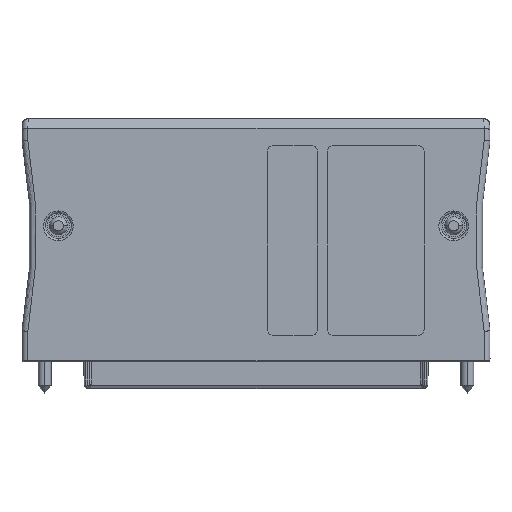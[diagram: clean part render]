
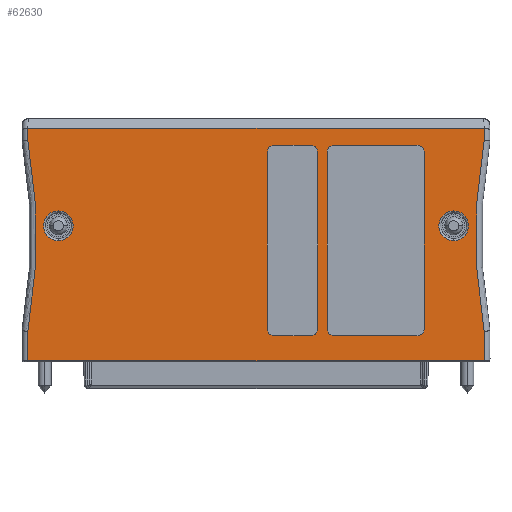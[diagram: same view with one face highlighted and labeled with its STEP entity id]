
A CAD part, left-side view. The second image highlights one B-rep face of the part: STEP entity #62630.
In plain terms, the highlighted planar face has unit normal (-1, 0, 0).
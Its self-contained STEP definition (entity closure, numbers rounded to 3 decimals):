
#5386=DIRECTION('',(0.,-1.,0.));
#5387=VECTOR('',#5386,4.878);
#5388=CARTESIAN_POINT('',(-0.473,2.439,1.2));
#5389=LINE('',#5388,#5387);
#5397=CARTESIAN_POINT('',(-0.473,2.439,1.2));
#5399=DIRECTION('',(0.,0.,-1.));
#5400=VECTOR('',#5399,0.13);
#5401=CARTESIAN_POINT('',(-0.473,2.439,1.2));
#5402=LINE('',#5401,#5400);
#5423=CARTESIAN_POINT('',(-0.473,-0.84,-0.94));
#5424=DIRECTION('',(-1.,0.,0.));
#5425=DIRECTION('',(0.,1.,0.));
#5426=AXIS2_PLACEMENT_3D('',#5423,#5424,#5425);
#5428=DIRECTION('',(0.,-1.,0.));
#5429=VECTOR('',#5428,0.88);
#5430=CARTESIAN_POINT('',(-0.473,-0.84,-1.02));
#5431=LINE('',#5430,#5429);
#5432=CARTESIAN_POINT('',(-0.473,-1.72,-0.94));
#5433=DIRECTION('',(-1.,0.,0.));
#5434=DIRECTION('',(0.,0.,-1.));
#5435=AXIS2_PLACEMENT_3D('',#5432,#5433,#5434);
#5437=DIRECTION('',(0.,0.,1.));
#5438=VECTOR('',#5437,1.88);
#5439=CARTESIAN_POINT('',(-0.473,-1.8,-0.94));
#5440=LINE('',#5439,#5438);
#5441=CARTESIAN_POINT('',(-0.473,-1.72,0.94));
#5442=DIRECTION('',(-1.,0.,0.));
#5443=DIRECTION('',(0.,-1.,0.));
#5444=AXIS2_PLACEMENT_3D('',#5441,#5442,#5443);
#5446=DIRECTION('',(0.,1.,0.));
#5447=VECTOR('',#5446,0.88);
#5448=CARTESIAN_POINT('',(-0.473,-1.72,1.02));
#5449=LINE('',#5448,#5447);
#5450=CARTESIAN_POINT('',(-0.473,-0.84,0.94));
#5451=DIRECTION('',(-1.,0.,0.));
#5452=DIRECTION('',(0.,0.,1.));
#5453=AXIS2_PLACEMENT_3D('',#5450,#5451,#5452);
#5455=DIRECTION('',(0.,0.,-1.));
#5456=VECTOR('',#5455,1.88);
#5457=CARTESIAN_POINT('',(-0.473,-0.76,0.94));
#5458=LINE('',#5457,#5456);
#5459=CARTESIAN_POINT('',(-0.473,-0.2,-0.94));
#5460=DIRECTION('',(-1.,0.,0.));
#5461=DIRECTION('',(0.,1.,0.));
#5462=AXIS2_PLACEMENT_3D('',#5459,#5460,#5461);
#5464=DIRECTION('',(0.,-1.,0.));
#5465=VECTOR('',#5464,0.38);
#5466=CARTESIAN_POINT('',(-0.473,-0.2,-1.02));
#5467=LINE('',#5466,#5465);
#5468=CARTESIAN_POINT('',(-0.473,-0.58,-0.94));
#5469=DIRECTION('',(-1.,0.,0.));
#5470=DIRECTION('',(0.,0.,-1.));
#5471=AXIS2_PLACEMENT_3D('',#5468,#5469,#5470);
#5473=DIRECTION('',(0.,0.,1.));
#5474=VECTOR('',#5473,1.88);
#5475=CARTESIAN_POINT('',(-0.473,-0.66,-0.94));
#5476=LINE('',#5475,#5474);
#5477=CARTESIAN_POINT('',(-0.473,-0.58,0.94));
#5478=DIRECTION('',(-1.,0.,0.));
#5479=DIRECTION('',(0.,-1.,0.));
#5480=AXIS2_PLACEMENT_3D('',#5477,#5478,#5479);
#5482=DIRECTION('',(0.,1.,0.));
#5483=VECTOR('',#5482,0.38);
#5484=CARTESIAN_POINT('',(-0.473,-0.58,1.02));
#5485=LINE('',#5484,#5483);
#5486=CARTESIAN_POINT('',(-0.473,-0.2,0.94));
#5487=DIRECTION('',(-1.,0.,0.));
#5488=DIRECTION('',(0.,0.,1.));
#5489=AXIS2_PLACEMENT_3D('',#5486,#5487,#5488);
#5491=DIRECTION('',(0.,0.,-1.));
#5492=VECTOR('',#5491,1.88);
#5493=CARTESIAN_POINT('',(-0.473,-0.12,0.94));
#5494=LINE('',#5493,#5492);
#5495=DIRECTION('',(0.,-1.,0.));
#5496=VECTOR('',#5495,4.878);
#5497=CARTESIAN_POINT('',(-0.473,2.439,-1.285));
#5498=LINE('',#5497,#5496);
#5549=DIRECTION('',(0.,0.,1.));
#5550=VECTOR('',#5549,0.315);
#5551=CARTESIAN_POINT('',(-0.473,-2.439,-1.285));
#5552=LINE('',#5551,#5550);
#5557=CARTESIAN_POINT('',(-0.473,-8.178,0.05));
#5558=DIRECTION('',(1.,0.,0.));
#5559=DIRECTION('',(0.,0.985,-0.175));
#5560=AXIS2_PLACEMENT_3D('',#5557,#5558,#5559);
#5587=DIRECTION('',(0.,0.,-1.));
#5588=VECTOR('',#5587,0.13);
#5589=CARTESIAN_POINT('',(-0.473,-2.439,1.2));
#5590=LINE('',#5589,#5588);
#40215=DIRECTION('',(0.,0.,-1.));
#40216=VECTOR('',#40215,0.315);
#40217=CARTESIAN_POINT('',(-0.473,2.439,-0.97));
#40218=LINE('',#40217,#40216);
#40248=CARTESIAN_POINT('',(-0.473,8.178,0.05));
#40249=DIRECTION('',(1.,0.,0.));
#40250=DIRECTION('',(0.,-0.985,0.175));
#40251=AXIS2_PLACEMENT_3D('',#40248,#40249,#40250);
#40273=CARTESIAN_POINT('',(-0.473,-2.113,0.157));
#40274=DIRECTION('',(1.,0.,0.));
#40275=DIRECTION('',(0.,0.,1.));
#40276=AXIS2_PLACEMENT_3D('',#40273,#40274,#40275);
#40288=CARTESIAN_POINT('',(-0.473,-2.113,0.157));
#40289=DIRECTION('',(1.,0.,0.));
#40290=DIRECTION('',(0.,0.,-1.));
#40291=AXIS2_PLACEMENT_3D('',#40288,#40289,#40290);
#40379=CARTESIAN_POINT('',(-0.473,2.113,0.157));
#40380=DIRECTION('',(1.,0.,0.));
#40381=DIRECTION('',(0.,0.,1.));
#40382=AXIS2_PLACEMENT_3D('',#40379,#40380,#40381);
#40394=CARTESIAN_POINT('',(-0.473,2.113,0.157));
#40395=DIRECTION('',(1.,0.,0.));
#40396=DIRECTION('',(0.,0.,-1.));
#40397=AXIS2_PLACEMENT_3D('',#40394,#40395,#40396);
#52172=CARTESIAN_POINT('',(-0.473,-2.113,0.316));
#52173=CARTESIAN_POINT('',(-0.473,-2.113,-0.003));
#52174=VERTEX_POINT('',#52172);
#52175=VERTEX_POINT('',#52173);
#52180=CARTESIAN_POINT('',(-0.473,2.113,0.316));
#52181=CARTESIAN_POINT('',(-0.473,2.113,-0.003));
#52182=VERTEX_POINT('',#52180);
#52183=VERTEX_POINT('',#52181);
#52728=CARTESIAN_POINT('',(-0.473,2.439,-1.285));
#52729=CARTESIAN_POINT('',(-0.473,-2.439,-1.285));
#52730=VERTEX_POINT('',#52728);
#52731=VERTEX_POINT('',#52729);
#53068=CARTESIAN_POINT('',(-0.473,-0.76,-0.94));
#53069=CARTESIAN_POINT('',(-0.473,-0.84,-1.02));
#53070=VERTEX_POINT('',#53068);
#53071=VERTEX_POINT('',#53069);
#53072=CARTESIAN_POINT('',(-0.473,-1.72,-1.02));
#53073=VERTEX_POINT('',#53072);
#53074=CARTESIAN_POINT('',(-0.473,-1.8,-0.94));
#53075=VERTEX_POINT('',#53074);
#53076=CARTESIAN_POINT('',(-0.473,-1.8,0.94));
#53077=VERTEX_POINT('',#53076);
#53078=CARTESIAN_POINT('',(-0.473,-1.72,1.02));
#53079=VERTEX_POINT('',#53078);
#53080=CARTESIAN_POINT('',(-0.473,-0.84,1.02));
#53081=VERTEX_POINT('',#53080);
#53082=CARTESIAN_POINT('',(-0.473,-0.76,0.94));
#53083=VERTEX_POINT('',#53082);
#53084=CARTESIAN_POINT('',(-0.473,-0.12,-0.94));
#53085=CARTESIAN_POINT('',(-0.473,-0.2,-1.02));
#53086=VERTEX_POINT('',#53084);
#53087=VERTEX_POINT('',#53085);
#53088=CARTESIAN_POINT('',(-0.473,-0.58,-1.02));
#53089=VERTEX_POINT('',#53088);
#53090=CARTESIAN_POINT('',(-0.473,-0.66,-0.94));
#53091=VERTEX_POINT('',#53090);
#53092=CARTESIAN_POINT('',(-0.473,-0.66,0.94));
#53093=VERTEX_POINT('',#53092);
#53094=CARTESIAN_POINT('',(-0.473,-0.58,1.02));
#53095=VERTEX_POINT('',#53094);
#53096=CARTESIAN_POINT('',(-0.473,-0.2,1.02));
#53097=VERTEX_POINT('',#53096);
#53098=CARTESIAN_POINT('',(-0.473,-0.12,0.94));
#53099=VERTEX_POINT('',#53098);
#54286=CARTESIAN_POINT('',(-0.473,-2.439,-0.97));
#54287=CARTESIAN_POINT('',(-0.473,-2.439,1.07));
#54288=VERTEX_POINT('',#54286);
#54289=VERTEX_POINT('',#54287);
#54294=CARTESIAN_POINT('',(-0.473,-2.439,1.2));
#54295=VERTEX_POINT('',#54294);
#54308=CARTESIAN_POINT('',(-0.473,2.439,1.07));
#54309=CARTESIAN_POINT('',(-0.473,2.439,-0.97));
#54310=VERTEX_POINT('',#54308);
#54311=VERTEX_POINT('',#54309);
#54315=VERTEX_POINT('',#5397);
#62561=CARTESIAN_POINT('',(-0.473,0.,0.));
#62562=DIRECTION('',(-1.,0.,0.));
#62563=DIRECTION('',(0.,0.,-1.));
#62564=AXIS2_PLACEMENT_3D('',#62561,#62562,#62563);
#62565=PLANE('',#62564);
#62567=ORIENTED_EDGE('',*,*,#62566,.F.);
#62569=ORIENTED_EDGE('',*,*,#62568,.F.);
#62571=ORIENTED_EDGE('',*,*,#62570,.F.);
#62572=ORIENTED_EDGE('',*,*,#62554,.F.);
#62573=ORIENTED_EDGE('',*,*,#62541,.T.);
#62575=ORIENTED_EDGE('',*,*,#62574,.T.);
#62577=ORIENTED_EDGE('',*,*,#62576,.F.);
#62579=ORIENTED_EDGE('',*,*,#62578,.F.);
#62580=EDGE_LOOP('',(#62567,#62569,#62571,#62572,#62573,#62575,#62577,#62579));
#62581=FACE_OUTER_BOUND('',#62580,.F.);
#62583=ORIENTED_EDGE('',*,*,#62582,.F.);
#62585=ORIENTED_EDGE('',*,*,#62584,.F.);
#62586=EDGE_LOOP('',(#62583,#62585));
#62587=FACE_BOUND('',#62586,.F.);
#62589=ORIENTED_EDGE('',*,*,#62588,.F.);
#62591=ORIENTED_EDGE('',*,*,#62590,.F.);
#62592=EDGE_LOOP('',(#62589,#62591));
#62593=FACE_BOUND('',#62592,.F.);
#62595=ORIENTED_EDGE('',*,*,#62594,.T.);
#62597=ORIENTED_EDGE('',*,*,#62596,.T.);
#62599=ORIENTED_EDGE('',*,*,#62598,.T.);
#62601=ORIENTED_EDGE('',*,*,#62600,.T.);
#62603=ORIENTED_EDGE('',*,*,#62602,.T.);
#62605=ORIENTED_EDGE('',*,*,#62604,.T.);
#62607=ORIENTED_EDGE('',*,*,#62606,.T.);
#62609=ORIENTED_EDGE('',*,*,#62608,.T.);
#62610=EDGE_LOOP('',(#62595,#62597,#62599,#62601,#62603,#62605,#62607,#62609));
#62611=FACE_BOUND('',#62610,.F.);
#62613=ORIENTED_EDGE('',*,*,#62612,.T.);
#62615=ORIENTED_EDGE('',*,*,#62614,.T.);
#62617=ORIENTED_EDGE('',*,*,#62616,.T.);
#62619=ORIENTED_EDGE('',*,*,#62618,.T.);
#62621=ORIENTED_EDGE('',*,*,#62620,.T.);
#62623=ORIENTED_EDGE('',*,*,#62622,.T.);
#62625=ORIENTED_EDGE('',*,*,#62624,.T.);
#62627=ORIENTED_EDGE('',*,*,#62626,.T.);
#62628=EDGE_LOOP('',(#62613,#62615,#62617,#62619,#62621,#62623,#62625,#62627));
#62629=FACE_BOUND('',#62628,.F.);
#62630=ADVANCED_FACE('',(#62581,#62587,#62593,#62611,#62629),#62565,.T.);
#5427=CIRCLE('',#5426,0.08);
#5436=CIRCLE('',#5435,0.08);
#5445=CIRCLE('',#5444,0.08);
#5454=CIRCLE('',#5453,0.08);
#5463=CIRCLE('',#5462,0.08);
#5472=CIRCLE('',#5471,0.08);
#5481=CIRCLE('',#5480,0.08);
#5490=CIRCLE('',#5489,0.08);
#5561=CIRCLE('',#5560,5.83);
#40252=CIRCLE('',#40251,5.83);
#40277=CIRCLE('',#40276,0.159);
#40292=CIRCLE('',#40291,0.159);
#40383=CIRCLE('',#40382,0.159);
#40398=CIRCLE('',#40397,0.159);
#62541=EDGE_CURVE('',#54315,#54295,#5389,.T.);
#62554=EDGE_CURVE('',#54315,#54310,#5402,.T.);
#62566=EDGE_CURVE('',#52730,#52731,#5498,.T.);
#62568=EDGE_CURVE('',#54311,#52730,#40218,.T.);
#62570=EDGE_CURVE('',#54310,#54311,#40252,.T.);
#62574=EDGE_CURVE('',#54295,#54289,#5590,.T.);
#62576=EDGE_CURVE('',#54288,#54289,#5561,.T.);
#62578=EDGE_CURVE('',#52731,#54288,#5552,.T.);
#62582=EDGE_CURVE('',#52174,#52175,#40277,.T.);
#62584=EDGE_CURVE('',#52175,#52174,#40292,.T.);
#62588=EDGE_CURVE('',#52182,#52183,#40383,.T.);
#62590=EDGE_CURVE('',#52183,#52182,#40398,.T.);
#62594=EDGE_CURVE('',#53070,#53071,#5427,.T.);
#62596=EDGE_CURVE('',#53071,#53073,#5431,.T.);
#62598=EDGE_CURVE('',#53073,#53075,#5436,.T.);
#62600=EDGE_CURVE('',#53075,#53077,#5440,.T.);
#62602=EDGE_CURVE('',#53077,#53079,#5445,.T.);
#62604=EDGE_CURVE('',#53079,#53081,#5449,.T.);
#62606=EDGE_CURVE('',#53081,#53083,#5454,.T.);
#62608=EDGE_CURVE('',#53083,#53070,#5458,.T.);
#62612=EDGE_CURVE('',#53086,#53087,#5463,.T.);
#62614=EDGE_CURVE('',#53087,#53089,#5467,.T.);
#62616=EDGE_CURVE('',#53089,#53091,#5472,.T.);
#62618=EDGE_CURVE('',#53091,#53093,#5476,.T.);
#62620=EDGE_CURVE('',#53093,#53095,#5481,.T.);
#62622=EDGE_CURVE('',#53095,#53097,#5485,.T.);
#62624=EDGE_CURVE('',#53097,#53099,#5490,.T.);
#62626=EDGE_CURVE('',#53099,#53086,#5494,.T.);
